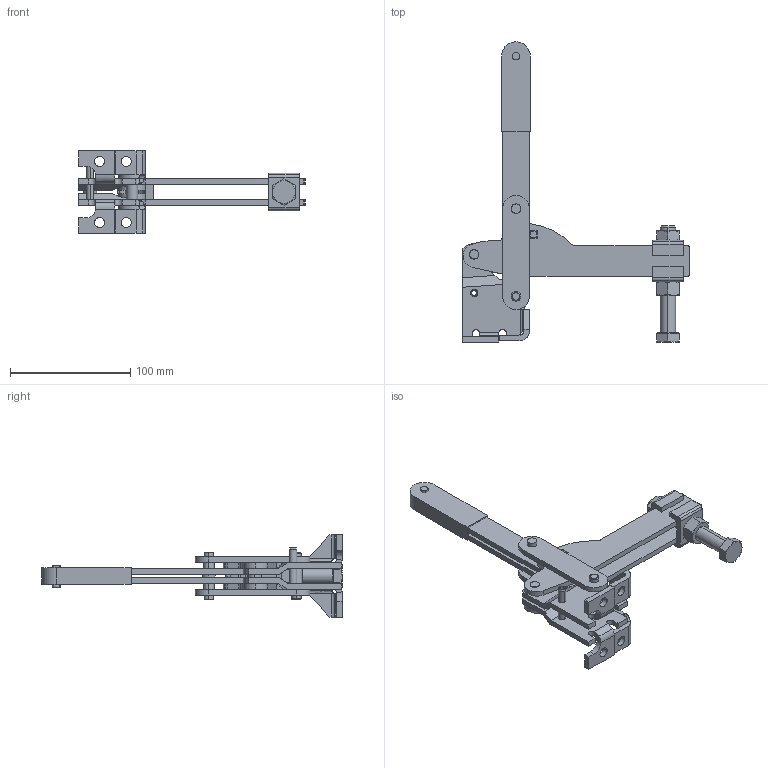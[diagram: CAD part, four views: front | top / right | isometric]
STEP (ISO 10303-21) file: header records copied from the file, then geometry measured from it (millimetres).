
FILE_DESCRIPTION((''),'2;1');
FILE_NAME('C:\1a1-lapeer-mfg\v800\step\V-800.stp','2006-01-19T19:49:50',('rtaylor'),(''),'Autodesk Inventor 9','Autodesk Inventor 9','');
FILE_SCHEMA(('AUTOMOTIVE_DESIGN { 1 0 10303 214 1 1 1 1 }'));
Length unit declared in the file: inch
Products named in the file (18): V-800; 120004L; 120004R; 150019; 110012RL; 100004; 150024; 150062; 150063; 130024; 150064; 102014; 150010; N-470078; 170078; 170074-CT; 171011; 170073-CT
Assembly tree (22 placements, depth 3):
  V-800
    120004L
    120004R
    150019  x2
    110012RL  x2
    100004  x2
    150024
    150062
    150063
    130024  x2
    150064
    102014
    150010
    N-470078
      170078
      170074-CT
      171011  x2
      170073-CT
Bounding box: 188.9 x 250.1 x 68.48 mm (x, y, z)
Volume: 183615 mm3; surface area: 108314.3 mm2
Topology: 21 solids, 21 shells, 483 faces, 1192 edges, 770 vertices
Faces by surface type: plane 176, cylinder 168, bspline 79, cone 56, torus 4
Entity records: 13594 total; most frequent: CARTESIAN_POINT 3754, DIRECTION 1970, ORIENTED_EDGE 1964, EDGE_CURVE 982, AXIS2_PLACEMENT_3D 734, VERTEX_POINT 630, VECTOR 502, LINE 502
